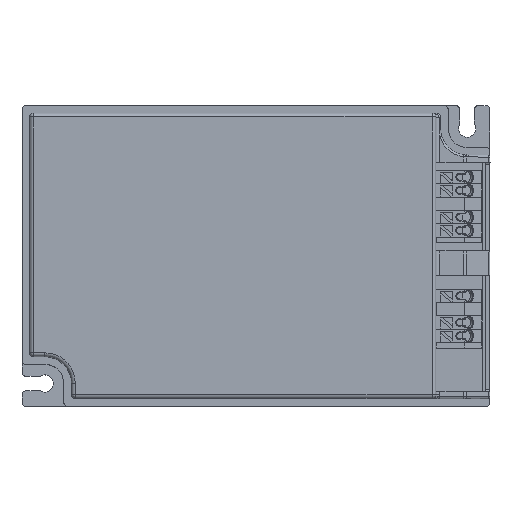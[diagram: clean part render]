
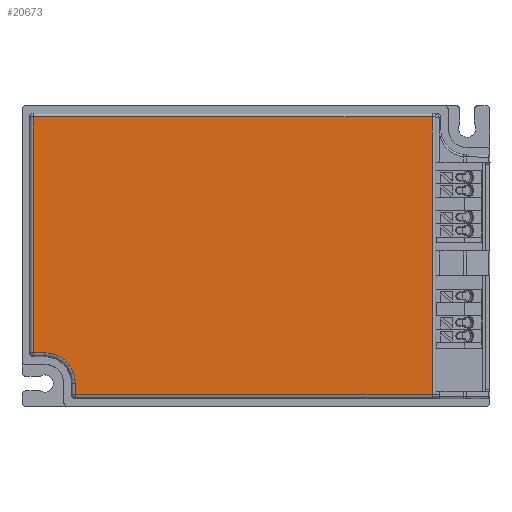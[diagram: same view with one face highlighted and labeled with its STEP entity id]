
A CAD part, top view. The second image highlights one B-rep face of the part: STEP entity #20673.
In plain terms, the highlighted planar face has unit normal (0, 0, 1).
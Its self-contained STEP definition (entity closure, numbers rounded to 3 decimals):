
#656 = ORIENTED_EDGE ( 'NONE', *, *, #3445, .T. ) ;
#657 = VECTOR ( 'NONE', #15760, 1000. ) ;
#977 = VECTOR ( 'NONE', #10260, 1000. ) ;
#2287 = VECTOR ( 'NONE', #12850, 1000. ) ;
#2516 = DIRECTION ( 'NONE',  ( -1., 0., 0. ) ) ;
#3106 = CARTESIAN_POINT ( 'NONE',  ( -47.5, -33.5, 31. ) ) ;
#3445 = EDGE_CURVE ( 'NONE', #12457, #14402, #22005, .T. ) ;
#4036 = CARTESIAN_POINT ( 'NONE',  ( -55.5, -33.5, 31. ) ) ;
#4408 = CIRCLE ( 'NONE', #5239, 8. ) ;
#5191 = DIRECTION ( 'NONE',  ( 0., -1., 0. ) ) ;
#5239 = AXIS2_PLACEMENT_3D ( 'NONE', #20259, #10075, #2516 ) ;
#6119 = DIRECTION ( 'NONE',  ( -1., 0., 0. ) ) ;
#6745 = ORIENTED_EDGE ( 'NONE', *, *, #7175, .T. ) ;
#6994 = VERTEX_POINT ( 'NONE', #13253 ) ;
#7175 = EDGE_CURVE ( 'NONE', #13115, #17322, #8561, .T. ) ;
#7613 = ORIENTED_EDGE ( 'NONE', *, *, #16471, .T. ) ;
#7852 = CARTESIAN_POINT ( 'NONE',  ( -58.5, -33.5, 31. ) ) ;
#8561 = LINE ( 'NONE', #24225, #14472 ) ;
#8792 = CARTESIAN_POINT ( 'NONE',  ( -55.5, -25.5, 31. ) ) ;
#9167 = LINE ( 'NONE', #8792, #15619 ) ;
#9882 = DIRECTION ( 'NONE',  ( -1., 0., 0. ) ) ;
#10075 = DIRECTION ( 'NONE',  ( 0., 0., -1. ) ) ;
#10260 = DIRECTION ( 'NONE',  ( 1., 0., 0. ) ) ;
#10559 = AXIS2_PLACEMENT_3D ( 'NONE', #4036, #23448, #9882 ) ;
#10800 = LINE ( 'NONE', #18562, #2287 ) ;
#11239 = EDGE_CURVE ( 'NONE', #24799, #12457, #12958, .T. ) ;
#12457 = VERTEX_POINT ( 'NONE', #15594 ) ;
#12850 = DIRECTION ( 'NONE',  ( 0., 1., 0. ) ) ;
#12958 = LINE ( 'NONE', #3106, #17909 ) ;
#13115 = VERTEX_POINT ( 'NONE', #18849 ) ;
#13253 = CARTESIAN_POINT ( 'NONE',  ( -58.5, -25.5, 31. ) ) ;
#14359 = EDGE_CURVE ( 'NONE', #17322, #6994, #25612, .T. ) ;
#14402 = VERTEX_POINT ( 'NONE', #20635 ) ;
#14472 = VECTOR ( 'NONE', #6119, 1000. ) ;
#15079 = EDGE_CURVE ( 'NONE', #21283, #24799, #4408, .T. ) ;
#15594 = CARTESIAN_POINT ( 'NONE',  ( -47.5, -36.5, 31. ) ) ;
#15619 = VECTOR ( 'NONE', #24589, 1000. ) ;
#15760 = DIRECTION ( 'NONE',  ( 0., -1., 0. ) ) ;
#16386 = PLANE ( 'NONE',  #10559 ) ;
#16471 = EDGE_CURVE ( 'NONE', #6994, #21283, #9167, .T. ) ;
#17322 = VERTEX_POINT ( 'NONE', #20042 ) ;
#17909 = VECTOR ( 'NONE', #5191, 1000. ) ;
#18122 = EDGE_LOOP ( 'NONE', ( #18389, #6745, #24296, #7613, #20838, #22796, #656 ) ) ;
#18389 = ORIENTED_EDGE ( 'NONE', *, *, #24901, .T. ) ;
#18562 = CARTESIAN_POINT ( 'NONE',  ( 46.3, -33.5, 31. ) ) ;
#18717 = FACE_OUTER_BOUND ( 'NONE', #18122, .T. ) ;
#18849 = CARTESIAN_POINT ( 'NONE',  ( 46.3, 36.5, 31. ) ) ;
#19385 = CARTESIAN_POINT ( 'NONE',  ( -55.5, -25.5, 31. ) ) ;
#20042 = CARTESIAN_POINT ( 'NONE',  ( -58.5, 36.5, 31. ) ) ;
#20090 = CARTESIAN_POINT ( 'NONE',  ( -47.5, -33.5, 31. ) ) ;
#20259 = CARTESIAN_POINT ( 'NONE',  ( -55.5, -33.5, 31. ) ) ;
#20635 = CARTESIAN_POINT ( 'NONE',  ( 46.3, -36.5, 31. ) ) ;
#20673 = ADVANCED_FACE ( 'NONE', ( #18717 ), #16386, .F. ) ;
#20838 = ORIENTED_EDGE ( 'NONE', *, *, #15079, .T. ) ;
#21283 = VERTEX_POINT ( 'NONE', #19385 ) ;
#22005 = LINE ( 'NONE', #23964, #977 ) ;
#22796 = ORIENTED_EDGE ( 'NONE', *, *, #11239, .T. ) ;
#23448 = DIRECTION ( 'NONE',  ( 0., 0., -1. ) ) ;
#23964 = CARTESIAN_POINT ( 'NONE',  ( -55.5, -36.5, 31. ) ) ;
#24225 = CARTESIAN_POINT ( 'NONE',  ( -55.5, 36.5, 31. ) ) ;
#24296 = ORIENTED_EDGE ( 'NONE', *, *, #14359, .T. ) ;
#24589 = DIRECTION ( 'NONE',  ( 1., 0., 0. ) ) ;
#24799 = VERTEX_POINT ( 'NONE', #20090 ) ;
#24901 = EDGE_CURVE ( 'NONE', #14402, #13115, #10800, .T. ) ;
#25612 = LINE ( 'NONE', #7852, #657 ) ;
